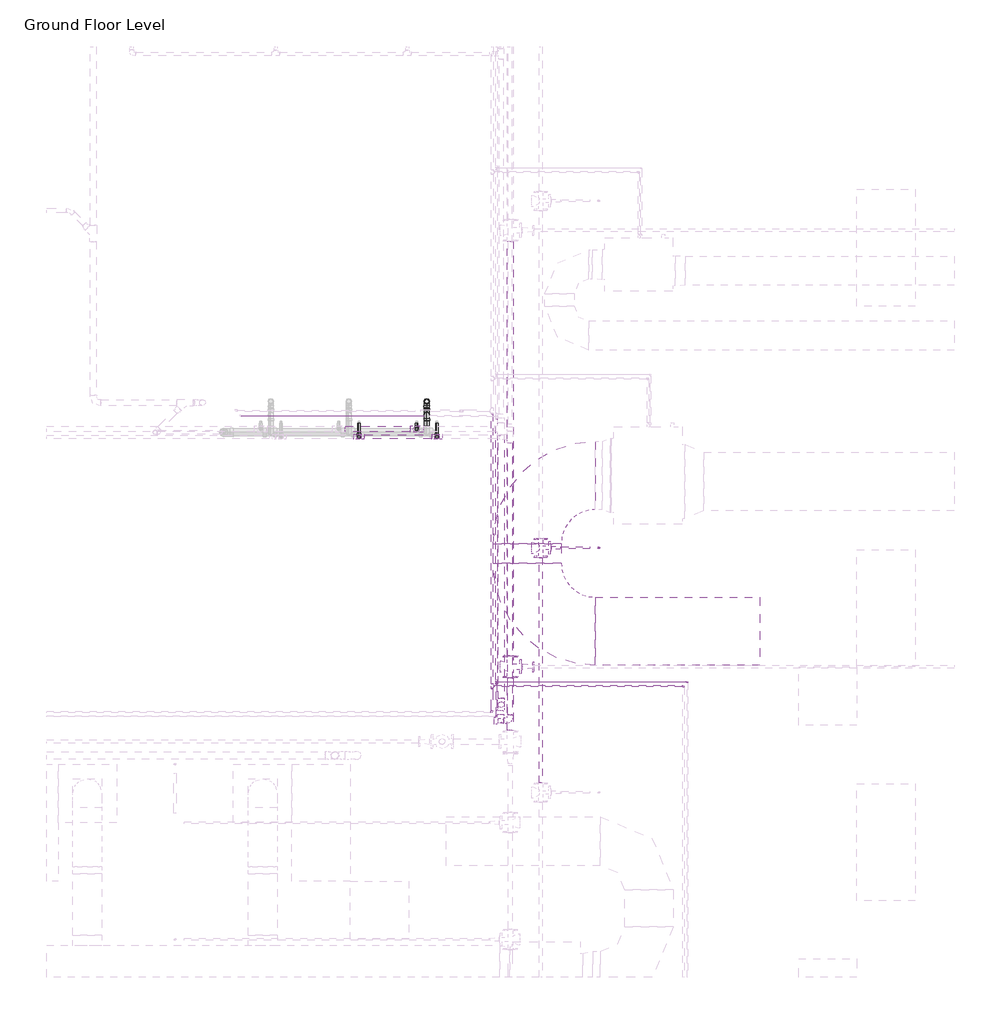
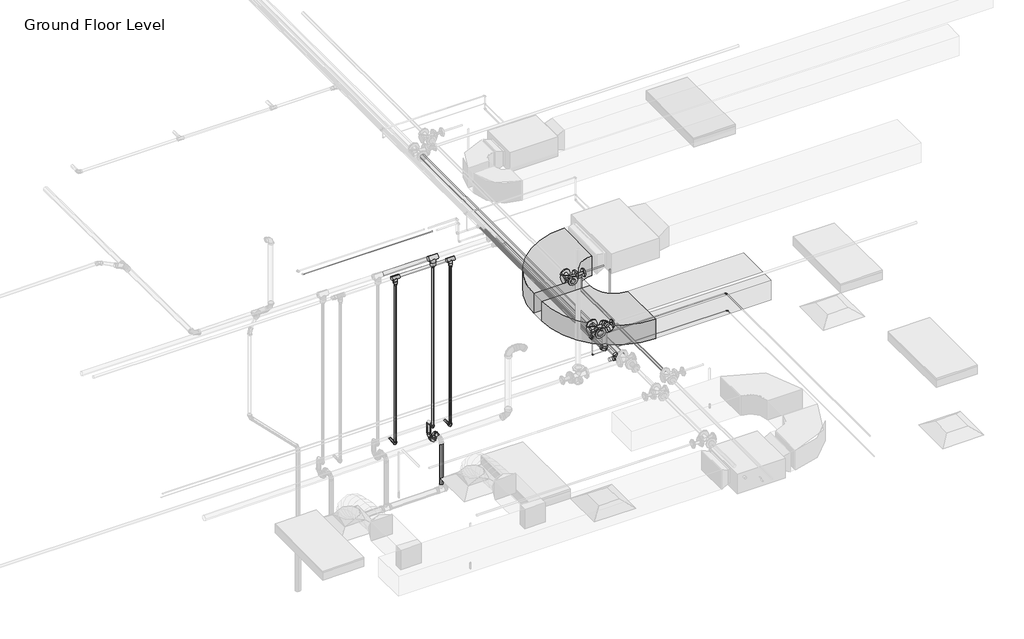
# One storey, part 16 of 66: 31 pipe fittings, 30 pipe segments, 2 duct fittings, 2 duct segments, 1 fire suppression terminal.
"""IFC4 building model written with IfcOpenShell, lengths in millimetres."""

from ifc_helpers import new_model, si_unit, point, frame, frame_2d, origin, place, context, project, spatial, polyline, circle_curve, trimmed, segment, composite_curve, outline, extrude, transform, mapped, element, save
from components import m_rectangular_elbow_radius_1_w_8a62b27e, m_sprinkler_pendent_15_mm_pendent_06fcbd8e, m_bend_pvc_sch_40_dwv_standard_1e7bdcc1, m_bend_pvc_sch_40_dwv_standard_776e50c4, m_elbow_generic_standard_a088f956, m_elbow_generic_standard_2a704253, m_reducer_flanged_cs_class_150_standard_d42b2106, m_reducer_flanged_cs_class_150_standard_a7631c35, m_tee_generic_standard_5b2ed4d4, m_tee_generic_standard_cdc1cff5, m_tee_round_base_flanged_cs_class_150_standard_dd767e04, m_tee_round_base_flanged_cs_class_150_standard_7e5987a1, m_transition_generic_standard_6dc712c0, m_transition_generic_standard_bdcfe2c1, m_transition_generic_standard_2d362458, standard_b266ab3f, standard_08ff6011, standard_cd25fed3, standard_83629b21, standard_57727813, standard_9d5ac8af, standard_102e5625

model = new_model("IFC4")

# Units and contexts
model_context = context("Model", 3, world=origin())
ifc_project = project(units=[si_unit("LENGTHUNIT", "METRE", prefix="MILLI")], contexts=[model_context])

# Site, building, storey
site = spatial("IfcSite", under=ifc_project)
building = spatial("IfcBuilding", under=site)
storey = spatial("IfcBuildingStorey", under=building, Name="Ground Floor Level", Elevation=900.0)

# Duct fittings
placement = place(None, origin())
m_rectangular_elbow_radius_1_w_shape = m_rectangular_elbow_radius_1_w_8a62b27e(model_context)
element("IfcDuctFitting", 1, ObjectType="M_Rectangular Elbow - Radius : 1 W", at=placement, inside=storey, context=model_context, shape_type="MappedRepresentation", body=[
    mapped(m_rectangular_elbow_radius_1_w_shape, transform((5857.7672394, -33301.2726336, 4032.4375), x_axis=(-1.0, 0.0, 0.0), y_axis=(0.0, -1.0, 0.0), z_axis=(0.0, 0.0, 1.0))),
])
element("IfcDuctFitting", 2, ObjectType="M_Rectangular Elbow - Radius : 1 W", at=placement, inside=storey, context=model_context, shape_type="MappedRepresentation", body=[
    mapped(m_rectangular_elbow_radius_1_w_shape, transform((5857.7672394, -34901.2726336, 4032.4375), x_axis=(0.0, -1.0, 0.0), y_axis=(1.0, 0.0, 0.0), z_axis=(0.0, 0.0, 1.0))),
])

# Duct segments
element("IfcDuctSegment", 3, ObjectType="Radius Elbows / Taps", at=placement, inside=storey, context=model_context, shape_type="SweptSolid", body=[
    extrude(outline(polyline([(5507.7672394, -34001.2726336), (6207.7672394, -34001.2726336), (6207.7672394, -34201.2726336), (5507.7672394, -34201.2726336), (5507.7672394, -34001.2726336)])), frame((0.0, 0.0, 3882.4375), z_axis=(0.0, 0.0, 1.0), x_axis=(1.0, 0.0, 0.0)), (0.0, 0.0, 1.0), 300.0),
])
element("IfcDuctSegment", 4, ObjectType="Radius Elbows / Taps", at=placement, inside=storey, context=model_context, shape_type="SweptSolid", body=[
    extrude(outline(polyline([(6557.7672394, -35251.2726336), (6557.7672394, -34551.2726336), (8242.7672394, -34551.2726336), (8242.7672394, -35251.2726336), (6557.7672394, -35251.2726336)])), frame((0.0, 0.0, 3882.4375), z_axis=(0.0, 0.0, 1.0), x_axis=(1.0, 0.0, 0.0)), (0.0, 0.0, 1.0), 300.0),
])

# Fire suppression terminal
m_sprinkler_pendent_15_mm_pendent_shape = m_sprinkler_pendent_15_mm_pendent_06fcbd8e(model_context)
element("IfcFireSuppressionTerminal", 5, ObjectType="M_Sprinkler - Pendent : 15 mm Pendent", at=placement, inside=storey, context=model_context, shape_type="MappedRepresentation", body=[
    mapped(m_sprinkler_pendent_15_mm_pendent_shape, transform((6592.5481019, -34045.051432, 3650.0), x_axis=(1.0, 0.0, 0.0), y_axis=(0.0, 1.0, 0.0), z_axis=(0.0, 0.0, 1.0))),
])

# Pipe fittings
m_bend_pvc_sch_40_dwv_standard_shape = m_bend_pvc_sch_40_dwv_standard_1e7bdcc1(model_context)
element("IfcPipeFitting", 6, ObjectType="M_Bend - PVC - Sch 40 - DWV : Standard", at=placement, inside=storey, context=model_context, shape_type="MappedRepresentation", body=[
    mapped(m_bend_pvc_sch_40_dwv_standard_shape, transform((4826.7846789, -32541.2164355, 1350.0), x_axis=(0.0, 0.0, -1.0), y_axis=(0.0, -1.0, 0.0), z_axis=(-1.0, 0.0, 0.0))),
])
m_bend_pvc_sch_40_dwv_standard_2_shape = m_bend_pvc_sch_40_dwv_standard_776e50c4(model_context)
element("IfcPipeFitting", 7, ObjectType="M_Bend - PVC - Sch 40 - DWV : Standard", at=placement, inside=storey, context=model_context, shape_type="MappedRepresentation", body=[
    mapped(m_bend_pvc_sch_40_dwv_standard_2_shape, transform((4826.7846789, -32676.2164355, 1348.45), x_axis=(0.0, -0.9999500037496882, -0.009999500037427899), y_axis=(0.0, -0.009999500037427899, 0.9999500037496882), z_axis=(-1.0, 0.0, 0.0))),
])
element("IfcPipeFitting", 8, ObjectType="M_Bend - PVC - Sch 40 - DWV : Standard", at=placement, inside=storey, context=model_context, shape_type="MappedRepresentation", body=[
    mapped(m_bend_pvc_sch_40_dwv_standard_2_shape, transform((4826.7846789, -32676.2164355, 1490.0), x_axis=(0.0, 0.0, 1.0), y_axis=(0.0, -1.0, 0.0), z_axis=(1.0, 0.0, 0.0))),
])
m_elbow_generic_standard_shape = m_elbow_generic_standard_a088f956(model_context)
element("IfcPipeFitting", 9, ObjectType="M_Elbow - Generic : Standard", at=placement, inside=storey, context=model_context, shape_type="MappedRepresentation", body=[
    mapped(m_elbow_generic_standard_shape, transform((5497.8951827, -35730.466218, 4390.0), x_axis=(1.0, 0.0, 0.0), y_axis=(0.0, 1.0, 0.0), z_axis=(0.0, 0.0, 1.0))),
])
element("IfcPipeFitting", 10, ObjectType="M_Elbow - Generic : Standard", at=placement, inside=storey, context=model_context, shape_type="MappedRepresentation", body=[
    mapped(m_elbow_generic_standard_shape, transform((7462.8951827, -35463.1206952, 4390.0), x_axis=(0.0, 1.0, 0.0), y_axis=(-1.0, 0.0, 0.0), z_axis=(0.0, 0.0, 1.0))),
])
m_elbow_generic_standard_2_shape = m_elbow_generic_standard_2a704253(model_context)
element("IfcPipeFitting", 11, ObjectType="M_Elbow - Generic : Standard", at=placement, inside=storey, context=model_context, shape_type="MappedRepresentation", body=[
    mapped(m_elbow_generic_standard_2_shape, transform((5543.9904113, -35773.5402522, 4377.5), x_axis=(1.0, 0.0, 0.0), y_axis=(0.0, 1.0, 0.0), z_axis=(0.0, 0.0, 1.0))),
])
element("IfcPipeFitting", 12, ObjectType="M_Elbow - Generic : Standard", at=placement, inside=storey, context=model_context, shape_type="MappedRepresentation", body=[
    mapped(m_elbow_generic_standard_2_shape, transform((7503.9904113, -35420.6009836, 4084.9), x_axis=(0.0, 1.0, 0.0), y_axis=(-1.0, 0.0, 0.0), z_axis=(0.0, 0.0, 1.0))),
])
element("IfcPipeFitting", 13, ObjectType="M_Elbow - Generic : Standard", at=placement, inside=storey, context=model_context, shape_type="MappedRepresentation", body=[
    mapped(m_elbow_generic_standard_2_shape, transform((5543.9904113, -35420.6009836, 4084.9), x_axis=(0.0, 0.0, -1.0), y_axis=(1.0, 0.0, 0.0), z_axis=(0.0, -1.0, 0.0))),
])
m_reducer_flanged_cs_class_150_standard_shape = m_reducer_flanged_cs_class_150_standard_d42b2106(model_context)
element("IfcPipeFitting", 14, ObjectType="M_Reducer - Flanged - CS - Class 150 : Standard", at=placement, inside=storey, context=model_context, shape_type="MappedRepresentation", body=[
    mapped(m_reducer_flanged_cs_class_150_standard_shape, transform((6097.7664057, -34045.051432, 4291.2754753), x_axis=(1.0, 0.0, 0.0), y_axis=(0.0, 0.0, -1.0), z_axis=(0.0, 1.0, 0.0))),
])
m_reducer_flanged_cs_class_150_standard_2_shape = m_reducer_flanged_cs_class_150_standard_a7631c35(model_context)
element("IfcPipeFitting", 15, ObjectType="M_Reducer - Flanged - CS - Class 150 : Standard", at=placement, inside=storey, context=model_context, shape_type="MappedRepresentation", body=[
    mapped(m_reducer_flanged_cs_class_150_standard_2_shape, transform((5798.6174894, -35264.7846466, 4347.5), x_axis=(1.0, 0.0, 0.0), y_axis=(0.0, 0.0, 1.0), z_axis=(0.0, -1.0, 0.0))),
])
m_tee_generic_standard_shape = m_tee_generic_standard_5b2ed4d4(model_context)
element("IfcPipeFitting", 16, ObjectType="M_Tee - Generic : Standard", at=placement, inside=storey, context=model_context, shape_type="MappedRepresentation", body=[
    mapped(m_tee_generic_standard_shape, transform((5543.9904113, -35420.6009836, 4377.5), x_axis=(0.0, 1.0, 0.0), y_axis=(0.0, 0.0, 1.0), z_axis=(1.0, 0.0, 0.0))),
])
m_tee_generic_standard_2_shape = m_tee_generic_standard_cdc1cff5(model_context)
element("IfcPipeFitting", 17, ObjectType="M_Tee - Generic : Standard", at=placement, inside=storey, context=model_context, shape_type="MappedRepresentation", body=[
    mapped(m_tee_generic_standard_2_shape, transform((5497.8951827, -35463.1206952, 4390.0), x_axis=(0.0, 1.0, 0.0), y_axis=(-1.0, 0.0, 0.0), z_axis=(0.0, 0.0, 1.0))),
])
m_tee_round_base_flanged_cs_class_150_standard_shape = m_tee_round_base_flanged_cs_class_150_standard_dd767e04(model_context)
element("IfcPipeFitting", 18, ObjectType="M_Tee Round Base - Flanged - CS - Class 150 : Standard", at=placement, inside=storey, context=model_context, shape_type="MappedRepresentation", body=[
    mapped(m_tee_round_base_flanged_cs_class_150_standard_shape, transform((5684.6174894, -35264.7846466, 4347.5), x_axis=(0.0, -1.0, 0.0), y_axis=(-1.0, 0.0, 0.0), z_axis=(0.0, 0.0, -1.0))),
])
m_tee_round_base_flanged_cs_class_150_standard_2_shape = m_tee_round_base_flanged_cs_class_150_standard_7e5987a1(model_context)
element("IfcPipeFitting", 19, ObjectType="M_Tee Round Base - Flanged - CS - Class 150 : Standard", at=placement, inside=storey, context=model_context, shape_type="MappedRepresentation", body=[
    mapped(m_tee_round_base_flanged_cs_class_150_standard_2_shape, transform((5997.057812, -34045.051432, 4291.0943441), x_axis=(0.0, 1.0, 0.0), y_axis=(-1.0, 0.0, 0.0), z_axis=(0.0, 0.0, 1.0))),
])
m_transition_generic_standard_shape = m_transition_generic_standard_6dc712c0(model_context)
element("IfcPipeFitting", 20, ObjectType="M_Transition - Generic : Standard", at=placement, inside=storey, context=model_context, shape_type="MappedRepresentation", body=[
    mapped(m_transition_generic_standard_shape, transform((5497.8951827, -35485.3456952, 4390.0), x_axis=(0.0, -1.0, 0.0), y_axis=(1.0, 0.0, 0.0), z_axis=(0.0, 0.0, 1.0))),
])
element("IfcPipeFitting", 21, ObjectType="M_Transition - Generic : Standard", at=placement, inside=storey, context=model_context, shape_type="MappedRepresentation", body=[
    mapped(m_transition_generic_standard_shape, transform((5520.1201827, -35463.1206952, 4390.0), x_axis=(1.0, 0.0, 0.0), y_axis=(0.0, 1.0, 0.0), z_axis=(0.0, 0.0, 1.0))),
])
m_transition_generic_standard_2_shape = m_transition_generic_standard_bdcfe2c1(model_context)
element("IfcPipeFitting", 22, ObjectType="M_Transition - Generic : Standard", at=placement, inside=storey, context=model_context, shape_type="MappedRepresentation", body=[
    mapped(m_transition_generic_standard_2_shape, transform((5543.9904113, -35441.2384836, 4377.5), x_axis=(0.0, -1.0, 0.0), y_axis=(1.0, 0.0, 0.0), z_axis=(0.0, 0.0, 1.0))),
])
m_transition_generic_standard_3_shape = m_transition_generic_standard_2d362458(model_context)
element("IfcPipeFitting", 23, ObjectType="M_Transition - Generic : Standard", at=placement, inside=storey, context=model_context, shape_type="MappedRepresentation", body=[
    mapped(m_transition_generic_standard_3_shape, transform((5543.9904113, -35420.6009836, 4356.8625), x_axis=(0.0, 0.0, -1.0), y_axis=(-1.0, 0.0, 0.0), z_axis=(0.0, 1.0, 0.0))),
])
standard_shape = standard_b266ab3f(model_context)
element("IfcPipeFitting", 24, ObjectType="M_Elbow - CPVC - Sch 40 : Standard", at=placement, inside=storey, context=model_context, shape_type="MappedRepresentation", body=[
    mapped(standard_shape, transform((4722.4697583, -32824.9853451, 1690.0), x_axis=(0.0, 0.0, -1.0), y_axis=(0.0, 1.0, 0.0), z_axis=(1.0, 0.0, 0.0))),
])
element("IfcPipeFitting", 25, ObjectType="M_Elbow - CPVC - Sch 40 : Standard", at=placement, inside=storey, context=model_context, shape_type="MappedRepresentation", body=[
    mapped(standard_shape, transform((4931.0995995, -32905.870708, 1690.0), x_axis=(0.0, -1.0, 0.0), y_axis=(0.0, 0.0, 1.0), z_axis=(-1.0, 0.0, 0.0))),
])
element("IfcPipeFitting", 26, ObjectType="M_Elbow - CPVC - Sch 40 : Standard", at=placement, inside=storey, context=model_context, shape_type="MappedRepresentation", body=[
    mapped(standard_shape, transform((4131.0995995, -32905.870708, 1690.0), x_axis=(0.0, -1.0, 0.0), y_axis=(0.0, 0.0, 1.0), z_axis=(-1.0, 0.0, 0.0))),
])
standard_2_shape = standard_08ff6011(model_context)
element("IfcPipeFitting", 27, ObjectType="M_Tee - CPVC - Sch 40 : Standard", at=placement, inside=storey, context=model_context, shape_type="MappedRepresentation", body=[
    mapped(standard_2_shape, transform((4931.0995995, -32905.870708, 4250.0), x_axis=(1.0, 0.0, 0.0), y_axis=(0.0, 0.0, 1.0), z_axis=(0.0, -1.0, 0.0))),
])
element("IfcPipeFitting", 28, ObjectType="M_Tee - CPVC - Sch 40 : Standard", at=placement, inside=storey, context=model_context, shape_type="MappedRepresentation", body=[
    mapped(standard_2_shape, transform((4131.0995995, -32905.870708, 4250.0), x_axis=(1.0, 0.0, 0.0), y_axis=(0.0, 0.0, 1.0), z_axis=(0.0, -1.0, 0.0))),
])
standard_3_shape = standard_cd25fed3(model_context)
element("IfcPipeFitting", 29, ObjectType="M_Tee - CPVC - Sch 40 : Standard", at=placement, inside=storey, context=model_context, shape_type="MappedRepresentation", body=[
    mapped(standard_3_shape, transform((4722.4697583, -32824.9853451, 4300.0), x_axis=(-1.0, 0.0, 0.0), y_axis=(0.0, 0.0, 1.0), z_axis=(0.0, 1.0, 0.0))),
])
standard_4_shape = standard_83629b21(model_context)
element("IfcPipeFitting", 30, ObjectType="M_Coupling Reducing - CPVC - Sch 40 : Standard", at=placement, inside=storey, context=model_context, shape_type="MappedRepresentation", body=[
    mapped(standard_4_shape, transform((4931.0995995, -32905.870708, 4196.025), x_axis=(0.0, 0.0, -1.0), y_axis=(-1.0, 0.0, 0.0), z_axis=(0.0, 1.0, 0.0))),
])
element("IfcPipeFitting", 31, ObjectType="M_Coupling Reducing - CPVC - Sch 40 : Standard", at=placement, inside=storey, context=model_context, shape_type="MappedRepresentation", body=[
    mapped(standard_4_shape, transform((4131.0995995, -32905.870708, 4196.025), x_axis=(0.0, 0.0, -1.0), y_axis=(-1.0, 0.0, 0.0), z_axis=(0.0, 1.0, 0.0))),
])
standard_5_shape = standard_57727813(model_context)
element("IfcPipeFitting", 32, ObjectType="M_Elbow - CPVC - Sch 40 : Standard", at=placement, inside=storey, context=model_context, shape_type="MappedRepresentation", body=[
    mapped(standard_5_shape, transform((5589.646628, -35653.7116931, 4719.8375), x_axis=(0.0, 0.0, 1.0), y_axis=(-0.06975647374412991, -0.997564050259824, 0.0), z_axis=(0.997564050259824, -0.06975647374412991, 0.0))),
])
element("IfcPipeFitting", 33, ObjectType="M_Elbow - CPVC - Sch 40 : Standard", at=placement, inside=storey, context=model_context, shape_type="MappedRepresentation", body=[
    mapped(standard_5_shape, transform((5585.1617227, -35819.459752, 4719.8375), x_axis=(1.0, 0.0, 0.0), y_axis=(0.0, 1.0, 0.0), z_axis=(0.0, 0.0, 1.0))),
])
element("IfcPipeFitting", 34, ObjectType="M_Elbow - CPVC - Sch 40 : Standard", at=placement, inside=storey, context=model_context, shape_type="MappedRepresentation", body=[
    mapped(standard_5_shape, transform((5589.646628, -35653.7116931, 4300.0), x_axis=(0.0, 0.0, -1.0), y_axis=(0.0, 1.0, 0.0), z_axis=(1.0, 0.0, 0.0))),
])
standard_6_shape = standard_9d5ac8af(model_context)
element("IfcPipeFitting", 35, ObjectType="M_Coupling Reducing - CPVC - Sch 40 : Standard", at=placement, inside=storey, context=model_context, shape_type="MappedRepresentation", body=[
    mapped(standard_6_shape, transform((4722.4697583, -32824.9853451, 4233.325), x_axis=(0.0, 0.0, -1.0), y_axis=(-1.0, 0.0, 0.0), z_axis=(0.0, 1.0, 0.0))),
])
standard_7_shape = standard_102e5625(model_context)
element("IfcPipeFitting", 36, ObjectType="M_Elbow - CPVC - Sch 40 : Standard", at=placement, inside=storey, context=model_context, shape_type="MappedRepresentation", body=[
    mapped(standard_7_shape, transform((5680.5575802, -35819.459752, 4250.0), x_axis=(1.0, 0.0, 0.0), y_axis=(0.0, 1.0, 0.0), z_axis=(0.0, 0.0, 1.0))),
])

# Pipe segments
element("IfcPipeSegment", 37, ObjectType="CPVC", at=placement, inside=storey, context=model_context, shape_type="SweptSolid", body=[
    extrude(outline(composite_curve([segment(trimmed(circle_curve(frame_2d((5589.646628, -35653.7116931)), 30.1625), [point((5559.484128, -35653.7116931))], [point((5589.646628, -35623.5491931))], False, "CARTESIAN"), True, "CONTINUOUS"), segment(trimmed(circle_curve(frame_2d((5589.646628, -35653.7116931)), 30.1625), [point((5589.646628, -35623.5491931))], [point((5619.809128, -35653.7116931))], False, "CARTESIAN"), True, "CONTINUOUS"), segment(trimmed(circle_curve(frame_2d((5589.646628, -35653.7116931)), 30.1625), [point((5619.809128, -35653.7116931))], [point((5589.646628, -35683.8741931))], False, "CARTESIAN"), True, "CONTINUOUS"), segment(trimmed(circle_curve(frame_2d((5589.646628, -35653.7116931)), 30.1625), [point((5589.646628, -35683.8741931))], [point((5559.484128, -35653.7116931))], False, "CARTESIAN"), True, "CONTINUOUS")], self_intersect=False)), frame((0.0, 0.0, 4364.29375), z_axis=(0.0, 0.0, 1.0), x_axis=(1.0, 0.0, 0.0)), (0.0, 0.0, 1.0), 291.25),
])
element("IfcPipeSegment", 38, ObjectType="CPVC", at=placement, inside=storey, context=model_context, shape_type="SweptSolid", body=[
    extrude(outline(composite_curve([segment(trimmed(circle_curve(frame_2d((4300.0, 5589.646628)), 30.1625), [point((4300.0, 5559.484128))], [point((4269.8375, 5589.646628))], False, "CARTESIAN"), True, "CONTINUOUS"), segment(trimmed(circle_curve(frame_2d((4300.0, 5589.646628)), 30.1625), [point((4269.8375, 5589.646628))], [point((4300.0, 5619.809128))], False, "CARTESIAN"), True, "CONTINUOUS"), segment(trimmed(circle_curve(frame_2d((4300.0, 5589.646628)), 30.1625), [point((4300.0, 5619.809128))], [point((4330.1625, 5589.646628))], False, "CARTESIAN"), True, "CONTINUOUS"), segment(trimmed(circle_curve(frame_2d((4300.0, 5589.646628)), 30.1625), [point((4330.1625, 5589.646628))], [point((4300.0, 5559.484128))], False, "CARTESIAN"), True, "CONTINUOUS")], self_intersect=False)), frame((0.0, -35589.4179431, 0.0), z_axis=(0.0, 1.0, 0.0), x_axis=(0.0, 0.0, 1.0)), (0.0, 0.0, 1.0), 2697.757598),
])
element("IfcPipeSegment", 39, ObjectType="CPVC", at=placement, inside=storey, context=model_context, shape_type="SweptSolid", body=[
    extrude(outline(composite_curve([segment(trimmed(circle_curve(frame_2d((1690.0, 4722.4697583)), 13.335), [point((1690.0, 4735.8047583))], [point((1703.335, 4722.4697583))], False, "CARTESIAN"), True, "CONTINUOUS"), segment(trimmed(circle_curve(frame_2d((1690.0, 4722.4697583)), 13.335), [point((1703.335, 4722.4697583))], [point((1690.0, 4709.1347583))], False, "CARTESIAN"), True, "CONTINUOUS"), segment(trimmed(circle_curve(frame_2d((1690.0, 4722.4697583)), 13.335), [point((1690.0, 4709.1347583))], [point((1676.665, 4722.4697583))], False, "CARTESIAN"), True, "CONTINUOUS"), segment(trimmed(circle_curve(frame_2d((1690.0, 4722.4697583)), 13.335), [point((1676.665, 4722.4697583))], [point((1690.0, 4735.8047583))], False, "CARTESIAN"), True, "CONTINUOUS")], self_intersect=False)), frame((0.0, -32789.6602951, 0.0), z_axis=(0.0, 1.0, 0.0), x_axis=(0.0, 0.0, 1.0)), (0.0, 0.0, 1.0), 24.8756485),
])
element("IfcPipeSegment", 40, ObjectType="CPVC", at=placement, inside=storey, context=model_context, shape_type="SweptSolid", body=[
    extrude(outline(composite_curve([segment(trimmed(circle_curve(frame_2d((4722.4697583, -32824.9853451)), 13.335), [point((4735.8047583, -32824.9853451))], [point((4722.4697583, -32838.3203451))], False, "CARTESIAN"), True, "CONTINUOUS"), segment(trimmed(circle_curve(frame_2d((4722.4697583, -32824.9853451)), 13.335), [point((4722.4697583, -32838.3203451))], [point((4709.1347583, -32824.9853451))], False, "CARTESIAN"), True, "CONTINUOUS"), segment(trimmed(circle_curve(frame_2d((4722.4697583, -32824.9853451)), 13.335), [point((4709.1347583, -32824.9853451))], [point((4722.4697583, -32811.6503451))], False, "CARTESIAN"), True, "CONTINUOUS"), segment(trimmed(circle_curve(frame_2d((4722.4697583, -32824.9853451)), 13.335), [point((4722.4697583, -32811.6503451))], [point((4735.8047583, -32824.9853451))], False, "CARTESIAN"), True, "CONTINUOUS")], self_intersect=False)), frame((0.0, 0.0, 1725.32505), z_axis=(0.0, 0.0, 1.0), x_axis=(1.0, 0.0, 0.0)), (0.0, 0.0, 1.0), 2431.503075),
])
element("IfcPipeSegment", 41, ObjectType="CPVC", at=placement, inside=storey, context=model_context, shape_type="SweptSolid", body=[
    extrude(outline(composite_curve([segment(trimmed(circle_curve(frame_2d((-32824.9853451, 4300.0)), 30.1625), [point((-32855.1478451, 4300.0))], [point((-32824.9853451, 4330.1625))], False, "CARTESIAN"), True, "CONTINUOUS"), segment(trimmed(circle_curve(frame_2d((-32824.9853451, 4300.0)), 30.1625), [point((-32824.9853451, 4330.1625))], [point((-32794.8228451, 4300.0))], False, "CARTESIAN"), True, "CONTINUOUS"), segment(trimmed(circle_curve(frame_2d((-32824.9853451, 4300.0)), 30.1625), [point((-32794.8228451, 4300.0))], [point((-32824.9853451, 4269.8375))], False, "CARTESIAN"), True, "CONTINUOUS"), segment(trimmed(circle_curve(frame_2d((-32824.9853451, 4300.0)), 30.1625), [point((-32824.9853451, 4269.8375))], [point((-32855.1478451, 4300.0))], False, "CARTESIAN"), True, "CONTINUOUS")], self_intersect=False)), frame((3989.1447583, 0.0, 0.0), z_axis=(1.0, 0.0, 0.0), x_axis=(0.0, 1.0, 0.0)), (0.0, 0.0, 1.0), 666.65),
])
element("IfcPipeSegment", 42, ObjectType="CPVC", at=placement, inside=storey, context=model_context, shape_type="SweptSolid", body=[
    extrude(outline(composite_curve([segment(trimmed(circle_curve(frame_2d((4250.0, 5680.5575802)), 24.13), [point((4250.0, 5704.6875802))], [point((4274.13, 5680.5575802))], False, "CARTESIAN"), True, "CONTINUOUS"), segment(trimmed(circle_curve(frame_2d((4250.0, 5680.5575802)), 24.13), [point((4274.13, 5680.5575802))], [point((4250.0, 5656.4275802))], False, "CARTESIAN"), True, "CONTINUOUS"), segment(trimmed(circle_curve(frame_2d((4250.0, 5680.5575802)), 24.13), [point((4250.0, 5656.4275802))], [point((4225.87, 5680.5575802))], False, "CARTESIAN"), True, "CONTINUOUS"), segment(trimmed(circle_curve(frame_2d((4250.0, 5680.5575802)), 24.13), [point((4225.87, 5680.5575802))], [point((4250.0, 5704.6875802))], False, "CARTESIAN"), True, "CONTINUOUS")], self_intersect=False)), frame((0.0, -35756.740802, 0.0), z_axis=(0.0, 1.0, 0.0), x_axis=(0.0, 0.0, 1.0)), (0.0, 0.0, 1.0), 2792.119894),
])
element("IfcPipeSegment", 43, ObjectType="CPVC", at=placement, inside=storey, context=model_context, shape_type="SweptSolid", body=[
    extrude(outline(composite_curve([segment(trimmed(circle_curve(frame_2d((1690.0, 4931.0995995)), 13.335), [point((1690.0, 4917.7645995))], [point((1676.665, 4931.0995995))], False, "CARTESIAN"), True, "CONTINUOUS"), segment(trimmed(circle_curve(frame_2d((1690.0, 4931.0995995)), 13.335), [point((1676.665, 4931.0995995))], [point((1690.0, 4944.4345995))], False, "CARTESIAN"), True, "CONTINUOUS"), segment(trimmed(circle_curve(frame_2d((1690.0, 4931.0995995)), 13.335), [point((1690.0, 4944.4345995))], [point((1703.335, 4931.0995995))], False, "CARTESIAN"), True, "CONTINUOUS"), segment(trimmed(circle_curve(frame_2d((1690.0, 4931.0995995)), 13.335), [point((1703.335, 4931.0995995))], [point((1690.0, 4917.7645995))], False, "CARTESIAN"), True, "CONTINUOUS")], self_intersect=False)), frame((0.0, -32870.545658, 0.0), z_axis=(0.0, 1.0, 0.0), x_axis=(0.0, 0.0, 1.0)), (0.0, 0.0, 1.0), 105.7610114),
])
element("IfcPipeSegment", 44, ObjectType="CPVC", at=placement, inside=storey, context=model_context, shape_type="SweptSolid", body=[
    extrude(outline(composite_curve([segment(trimmed(circle_curve(frame_2d((4931.0995995, -32905.870708)), 13.335), [point((4917.7645995, -32905.870708))], [point((4931.0995995, -32892.535708))], False, "CARTESIAN"), True, "CONTINUOUS"), segment(trimmed(circle_curve(frame_2d((4931.0995995, -32905.870708)), 13.335), [point((4931.0995995, -32892.535708))], [point((4944.4345995, -32905.870708))], False, "CARTESIAN"), True, "CONTINUOUS"), segment(trimmed(circle_curve(frame_2d((4931.0995995, -32905.870708)), 13.335), [point((4944.4345995, -32905.870708))], [point((4931.0995995, -32919.205708))], False, "CARTESIAN"), True, "CONTINUOUS"), segment(trimmed(circle_curve(frame_2d((4931.0995995, -32905.870708)), 13.335), [point((4931.0995995, -32919.205708))], [point((4917.7645995, -32905.870708))], False, "CARTESIAN"), True, "CONTINUOUS")], self_intersect=False)), frame((0.0, 0.0, 1725.32505), z_axis=(0.0, 0.0, 1.0), x_axis=(1.0, 0.0, 0.0)), (0.0, 0.0, 1.0), 2407.883075),
])
element("IfcPipeSegment", 45, ObjectType="CPVC", at=placement, inside=storey, context=model_context, shape_type="SweptSolid", body=[
    extrude(outline(composite_curve([segment(trimmed(circle_curve(frame_2d((1690.0, 4131.0995995)), 13.335), [point((1690.0, 4117.7645995))], [point((1676.665, 4131.0995995))], False, "CARTESIAN"), True, "CONTINUOUS"), segment(trimmed(circle_curve(frame_2d((1690.0, 4131.0995995)), 13.335), [point((1676.665, 4131.0995995))], [point((1690.0, 4144.4345995))], False, "CARTESIAN"), True, "CONTINUOUS"), segment(trimmed(circle_curve(frame_2d((1690.0, 4131.0995995)), 13.335), [point((1690.0, 4144.4345995))], [point((1703.335, 4131.0995995))], False, "CARTESIAN"), True, "CONTINUOUS"), segment(trimmed(circle_curve(frame_2d((1690.0, 4131.0995995)), 13.335), [point((1703.335, 4131.0995995))], [point((1690.0, 4117.7645995))], False, "CARTESIAN"), True, "CONTINUOUS")], self_intersect=False)), frame((0.0, -32870.545658, 0.0), z_axis=(0.0, 1.0, 0.0), x_axis=(0.0, 0.0, 1.0)), (0.0, 0.0, 1.0), 105.7610114),
])
element("IfcPipeSegment", 46, ObjectType="CPVC", at=placement, inside=storey, context=model_context, shape_type="SweptSolid", body=[
    extrude(outline(composite_curve([segment(trimmed(circle_curve(frame_2d((4131.0995995, -32905.870708)), 13.335), [point((4117.7645995, -32905.870708))], [point((4131.0995995, -32892.535708))], False, "CARTESIAN"), True, "CONTINUOUS"), segment(trimmed(circle_curve(frame_2d((4131.0995995, -32905.870708)), 13.335), [point((4131.0995995, -32892.535708))], [point((4144.4345995, -32905.870708))], False, "CARTESIAN"), True, "CONTINUOUS"), segment(trimmed(circle_curve(frame_2d((4131.0995995, -32905.870708)), 13.335), [point((4144.4345995, -32905.870708))], [point((4131.0995995, -32919.205708))], False, "CARTESIAN"), True, "CONTINUOUS"), segment(trimmed(circle_curve(frame_2d((4131.0995995, -32905.870708)), 13.335), [point((4131.0995995, -32919.205708))], [point((4117.7645995, -32905.870708))], False, "CARTESIAN"), True, "CONTINUOUS")], self_intersect=False)), frame((0.0, 0.0, 1725.32505), z_axis=(0.0, 0.0, 1.0), x_axis=(1.0, 0.0, 0.0)), (0.0, 0.0, 1.0), 2407.883075),
])
element("IfcPipeSegment", 47, ObjectType="CPVC", at=placement, inside=storey, context=model_context, shape_type="SweptSolid", body=[
    extrude(outline(composite_curve([segment(trimmed(circle_curve(frame_2d((-32905.870708, 4250.0)), 21.082), [point((-32884.788708, 4250.0))], [point((-32905.870708, 4228.918))], False, "CARTESIAN"), True, "CONTINUOUS"), segment(trimmed(circle_curve(frame_2d((-32905.870708, 4250.0)), 21.082), [point((-32905.870708, 4228.918))], [point((-32926.952708, 4250.0))], False, "CARTESIAN"), True, "CONTINUOUS"), segment(trimmed(circle_curve(frame_2d((-32905.870708, 4250.0)), 21.082), [point((-32926.952708, 4250.0))], [point((-32905.870708, 4271.082))], False, "CARTESIAN"), True, "CONTINUOUS"), segment(trimmed(circle_curve(frame_2d((-32905.870708, 4250.0)), 21.082), [point((-32905.870708, 4271.082))], [point((-32884.788708, 4250.0))], False, "CARTESIAN"), True, "CONTINUOUS")], self_intersect=False)), frame((4185.0745995, 0.0, 0.0), z_axis=(1.0, 0.0, 0.0), x_axis=(0.0, 1.0, 0.0)), (0.0, 0.0, 1.0), 692.05),
])
element("IfcPipeSegment", 48, ObjectType="CPVC", at=placement, inside=storey, context=model_context, shape_type="SweptSolid", body=[
    extrude(outline(composite_curve([segment(trimmed(circle_curve(frame_2d((-35819.459752, 4250.0)), 24.13), [point((-35843.589752, 4250.0))], [point((-35819.459752, 4274.13))], False, "CARTESIAN"), True, "CONTINUOUS"), segment(trimmed(circle_curve(frame_2d((-35819.459752, 4250.0)), 24.13), [point((-35819.459752, 4274.13))], [point((-35795.329752, 4250.0))], False, "CARTESIAN"), True, "CONTINUOUS"), segment(trimmed(circle_curve(frame_2d((-35819.459752, 4250.0)), 24.13), [point((-35795.329752, 4250.0))], [point((-35819.459752, 4225.87))], False, "CARTESIAN"), True, "CONTINUOUS"), segment(trimmed(circle_curve(frame_2d((-35819.459752, 4250.0)), 24.13), [point((-35819.459752, 4225.87))], [point((-35843.589752, 4250.0))], False, "CARTESIAN"), True, "CONTINUOUS")], self_intersect=False)), frame((5558.4766944, 0.0, 0.0), z_axis=(1.0, 0.0, 0.0), x_axis=(0.0, 1.0, 0.0)), (0.0, 0.0, 1.0), 59.3619358),
])
element("IfcPipeSegment", 49, ObjectType="Copper", at=placement, inside=storey, context=model_context, shape_type="SweptSolid", body=[
    extrude(outline(composite_curve([segment(trimmed(circle_curve(frame_2d((4390.0, 5497.8951827)), 6.5), [point((4390.0, 5491.3951827))], [point((4383.5, 5497.8951827))], False, "CARTESIAN"), True, "CONTINUOUS"), segment(trimmed(circle_curve(frame_2d((4390.0, 5497.8951827)), 6.5), [point((4383.5, 5497.8951827))], [point((4390.0, 5504.3951827))], False, "CARTESIAN"), True, "CONTINUOUS"), segment(trimmed(circle_curve(frame_2d((4390.0, 5497.8951827)), 6.5), [point((4390.0, 5504.3951827))], [point((4396.5, 5497.8951827))], False, "CARTESIAN"), True, "CONTINUOUS"), segment(trimmed(circle_curve(frame_2d((4390.0, 5497.8951827)), 6.5), [point((4396.5, 5497.8951827))], [point((4390.0, 5491.3951827))], False, "CARTESIAN"), True, "CONTINUOUS")], self_intersect=False)), frame((0.0, -35716.178718, 0.0), z_axis=(0.0, 1.0, 0.0), x_axis=(0.0, 0.0, 1.0)), (0.0, 0.0, 1.0), 226.0705229),
])
element("IfcPipeSegment", 50, ObjectType="Copper", at=placement, inside=storey, context=model_context, shape_type="SweptSolid", body=[
    extrude(outline(composite_curve([segment(trimmed(circle_curve(frame_2d((-35463.1206952, 4390.0)), 6.5), [point((-35469.6206952, 4390.0))], [point((-35463.1206952, 4396.5))], False, "CARTESIAN"), True, "CONTINUOUS"), segment(trimmed(circle_curve(frame_2d((-35463.1206952, 4390.0)), 6.5), [point((-35463.1206952, 4396.5))], [point((-35456.6206952, 4390.0))], False, "CARTESIAN"), True, "CONTINUOUS"), segment(trimmed(circle_curve(frame_2d((-35463.1206952, 4390.0)), 6.5), [point((-35456.6206952, 4390.0))], [point((-35463.1206952, 4383.5))], False, "CARTESIAN"), True, "CONTINUOUS"), segment(trimmed(circle_curve(frame_2d((-35463.1206952, 4390.0)), 6.5), [point((-35463.1206952, 4383.5))], [point((-35469.6206952, 4390.0))], False, "CARTESIAN"), True, "CONTINUOUS")], self_intersect=False)), frame((5524.8826827, 0.0, 0.0), z_axis=(1.0, 0.0, 0.0), x_axis=(0.0, 1.0, 0.0)), (0.0, 0.0, 1.0), 1923.725),
])
element("IfcPipeSegment", 51, ObjectType="Copper", at=placement, inside=storey, context=model_context, shape_type="SweptSolid", body=[
    extrude(outline(composite_curve([segment(trimmed(circle_curve(frame_2d((4390.0, 5497.8951827)), 8.1), [point((4390.0, 5489.7951827))], [point((4381.9, 5497.8951827))], False, "CARTESIAN"), True, "CONTINUOUS"), segment(trimmed(circle_curve(frame_2d((4390.0, 5497.8951827)), 8.1), [point((4381.9, 5497.8951827))], [point((4390.0, 5505.9951827))], False, "CARTESIAN"), True, "CONTINUOUS"), segment(trimmed(circle_curve(frame_2d((4390.0, 5497.8951827)), 8.1), [point((4390.0, 5505.9951827))], [point((4398.1, 5497.8951827))], False, "CARTESIAN"), True, "CONTINUOUS"), segment(trimmed(circle_curve(frame_2d((4390.0, 5497.8951827)), 8.1), [point((4398.1, 5497.8951827))], [point((4390.0, 5489.7951827))], False, "CARTESIAN"), True, "CONTINUOUS")], self_intersect=False)), frame((0.0, -35440.8956952, 0.0), z_axis=(0.0, 1.0, 0.0), x_axis=(0.0, 0.0, 1.0)), (0.0, 0.0, 1.0), 2770.4294771),
])
element("IfcPipeSegment", 52, ObjectType="Copper", at=placement, inside=storey, context=model_context, shape_type="SweptSolid", body=[
    extrude(outline(composite_curve([segment(trimmed(circle_curve(frame_2d((4377.5, 5543.9904113)), 3.35), [point((4377.5, 5540.6404113))], [point((4374.15, 5543.9904113))], False, "CARTESIAN"), True, "CONTINUOUS"), segment(trimmed(circle_curve(frame_2d((4377.5, 5543.9904113)), 3.35), [point((4374.15, 5543.9904113))], [point((4377.5, 5547.3404113))], False, "CARTESIAN"), True, "CONTINUOUS"), segment(trimmed(circle_curve(frame_2d((4377.5, 5543.9904113)), 3.35), [point((4377.5, 5547.3404113))], [point((4380.85, 5543.9904113))], False, "CARTESIAN"), True, "CONTINUOUS"), segment(trimmed(circle_curve(frame_2d((4377.5, 5543.9904113)), 3.35), [point((4380.85, 5543.9904113))], [point((4377.5, 5540.6404113))], False, "CARTESIAN"), True, "CONTINUOUS")], self_intersect=False)), frame((0.0, -35762.4027522, 0.0), z_axis=(0.0, 1.0, 0.0), x_axis=(0.0, 0.0, 1.0)), (0.0, 0.0, 1.0), 317.1955186),
])
element("IfcPipeSegment", 53, ObjectType="Copper", at=placement, inside=storey, context=model_context, shape_type="SweptSolid", body=[
    extrude(outline(composite_curve([segment(trimmed(circle_curve(frame_2d((4377.5, 5543.9904113)), 6.5), [point((4377.5, 5537.4904113))], [point((4371.0, 5543.9904113))], False, "CARTESIAN"), True, "CONTINUOUS"), segment(trimmed(circle_curve(frame_2d((4377.5, 5543.9904113)), 6.5), [point((4371.0, 5543.9904113))], [point((4377.5, 5550.4904113))], False, "CARTESIAN"), True, "CONTINUOUS"), segment(trimmed(circle_curve(frame_2d((4377.5, 5543.9904113)), 6.5), [point((4377.5, 5550.4904113))], [point((4384.0, 5543.9904113))], False, "CARTESIAN"), True, "CONTINUOUS"), segment(trimmed(circle_curve(frame_2d((4377.5, 5543.9904113)), 6.5), [point((4384.0, 5543.9904113))], [point((4377.5, 5537.4904113))], False, "CARTESIAN"), True, "CONTINUOUS")], self_intersect=False)), frame((0.0, -35399.9634836, 0.0), z_axis=(0.0, 1.0, 0.0), x_axis=(0.0, 0.0, 1.0)), (0.0, 0.0, 1.0), 2681.4232314),
])
element("IfcPipeSegment", 54, ObjectType="Copper", at=placement, inside=storey, context=model_context, shape_type="SweptSolid", body=[
    extrude(outline(composite_curve([segment(trimmed(circle_curve(frame_2d((-32691.5527522, 4591.0863665)), 4.9), [point((-32686.6527522, 4591.0863665))], [point((-32691.5527522, 4586.1863665))], False, "CARTESIAN"), True, "CONTINUOUS"), segment(trimmed(circle_curve(frame_2d((-32691.5527522, 4591.0863665)), 4.9), [point((-32691.5527522, 4586.1863665))], [point((-32696.4527522, 4591.0863665))], False, "CARTESIAN"), True, "CONTINUOUS"), segment(trimmed(circle_curve(frame_2d((-32691.5527522, 4591.0863665)), 4.9), [point((-32696.4527522, 4591.0863665))], [point((-32691.5527522, 4595.9863665))], False, "CARTESIAN"), True, "CONTINUOUS"), segment(trimmed(circle_curve(frame_2d((-32691.5527522, 4591.0863665)), 4.9), [point((-32691.5527522, 4595.9863665))], [point((-32686.6527522, 4591.0863665))], False, "CARTESIAN"), True, "CONTINUOUS")], self_intersect=False)), frame((2924.0496079, 0.0, 0.0), z_axis=(1.0, 0.0, 0.0), x_axis=(0.0, 1.0, 0.0)), (0.0, 0.0, 1.0), 1873.9099107),
])
element("IfcPipeSegment", 55, ObjectType="Copper", at=placement, inside=storey, context=model_context, shape_type="SweptSolid", body=[
    extrude(outline(composite_curve([segment(trimmed(circle_curve(frame_2d((5543.9904113, -35420.6009836)), 3.35), [point((5547.3404113, -35420.6009836))], [point((5543.9904113, -35423.9509836))], False, "CARTESIAN"), True, "CONTINUOUS"), segment(trimmed(circle_curve(frame_2d((5543.9904113, -35420.6009836)), 3.35), [point((5543.9904113, -35423.9509836))], [point((5540.6404113, -35420.6009836))], False, "CARTESIAN"), True, "CONTINUOUS"), segment(trimmed(circle_curve(frame_2d((5543.9904113, -35420.6009836)), 3.35), [point((5540.6404113, -35420.6009836))], [point((5543.9904113, -35417.2509836))], False, "CARTESIAN"), True, "CONTINUOUS"), segment(trimmed(circle_curve(frame_2d((5543.9904113, -35420.6009836)), 3.35), [point((5543.9904113, -35417.2509836))], [point((5547.3404113, -35420.6009836))], False, "CARTESIAN"), True, "CONTINUOUS")], self_intersect=False)), frame((0.0, 0.0, 4096.0375), z_axis=(0.0, 0.0, 1.0), x_axis=(1.0, 0.0, 0.0)), (0.0, 0.0, 1.0), 256.85625),
])
element("IfcPipeSegment", 56, ObjectType="Copper", at=placement, inside=storey, context=model_context, shape_type="SweptSolid", body=[
    extrude(outline(composite_curve([segment(trimmed(circle_curve(frame_2d((-35420.6009836, 4084.9)), 3.35), [point((-35423.9509836, 4084.9))], [point((-35420.6009836, 4088.25))], False, "CARTESIAN"), True, "CONTINUOUS"), segment(trimmed(circle_curve(frame_2d((-35420.6009836, 4084.9)), 3.35), [point((-35420.6009836, 4088.25))], [point((-35417.2509836, 4084.9))], False, "CARTESIAN"), True, "CONTINUOUS"), segment(trimmed(circle_curve(frame_2d((-35420.6009836, 4084.9)), 3.35), [point((-35417.2509836, 4084.9))], [point((-35420.6009836, 4081.55))], False, "CARTESIAN"), True, "CONTINUOUS"), segment(trimmed(circle_curve(frame_2d((-35420.6009836, 4084.9)), 3.35), [point((-35420.6009836, 4081.55))], [point((-35423.9509836, 4084.9))], False, "CARTESIAN"), True, "CONTINUOUS")], self_intersect=False)), frame((5555.1279113, 0.0, 0.0), z_axis=(1.0, 0.0, 0.0), x_axis=(0.0, 1.0, 0.0)), (0.0, 0.0, 1.0), 1937.725),
])
element("IfcPipeSegment", 57, ObjectType="PVC - DWV", at=placement, inside=storey, context=model_context, shape_type="SweptSolid", body=[
    extrude(outline(composite_curve([segment(trimmed(circle_curve(frame_2d((4826.7846789, -32541.2164355)), 24.13), [point((4850.9146789, -32541.2164355))], [point((4826.7846789, -32565.3464355))], False, "CARTESIAN"), True, "CONTINUOUS"), segment(trimmed(circle_curve(frame_2d((4826.7846789, -32541.2164355)), 24.13), [point((4826.7846789, -32565.3464355))], [point((4802.6546789, -32541.2164355))], False, "CARTESIAN"), True, "CONTINUOUS"), segment(trimmed(circle_curve(frame_2d((4826.7846789, -32541.2164355)), 24.13), [point((4802.6546789, -32541.2164355))], [point((4826.7846789, -32517.0864355))], False, "CARTESIAN"), True, "CONTINUOUS"), segment(trimmed(circle_curve(frame_2d((4826.7846789, -32541.2164355)), 24.13), [point((4826.7846789, -32517.0864355))], [point((4850.9146789, -32541.2164355))], False, "CARTESIAN"), True, "CONTINUOUS")], self_intersect=False)), frame((0.0, 0.0, 1411.8998), z_axis=(0.0, 0.0, 1.0), x_axis=(1.0, 0.0, 0.0)), (0.0, 0.0, 1.0), 138.1002),
])
element("IfcPipeSegment", 58, ObjectType="PVC - DWV", at=placement, inside=storey, context=model_context, shape_type="SweptSolid", body=[
    extrude(outline(composite_curve([segment(trimmed(circle_curve(frame_2d((0.0, -24.13)), 24.13), [point((-24.13, -24.13))], [point((0.0, 0.0))], False, "CARTESIAN"), True, "CONTINUOUS"), segment(trimmed(circle_curve(frame_2d((0.0, -24.13)), 24.13), [point((0.0, 0.0))], [point((24.13, -24.13))], False, "CARTESIAN"), True, "CONTINUOUS"), segment(trimmed(circle_curve(frame_2d((0.0, -24.13)), 24.13), [point((24.13, -24.13))], [point((0.0, -48.2599999))], False, "CARTESIAN"), True, "CONTINUOUS"), segment(trimmed(circle_curve(frame_2d((0.0, -24.13)), 24.13), [point((0.0, -48.2599999))], [point((-24.13, -24.13))], False, "CARTESIAN"), True, "CONTINUOUS")], self_intersect=False)), frame((4826.7846789, -32614.0784423, 1324.9401735), z_axis=(0.0, 0.9999500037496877, 0.009999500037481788), x_axis=(1.0, 0.0, 0.0)), (0.0, 0.0, 1.0), 11.2091497),
])
element("IfcPipeSegment", 59, ObjectType="PVC - DWV", at=placement, inside=storey, context=model_context, shape_type="SweptSolid", body=[
    extrude(outline(composite_curve([segment(trimmed(circle_curve(frame_2d((4826.7846789, -32676.2164355)), 24.13), [point((4802.6546789, -32676.2164355))], [point((4826.7846789, -32652.0864355))], False, "CARTESIAN"), True, "CONTINUOUS"), segment(trimmed(circle_curve(frame_2d((4826.7846789, -32676.2164355)), 24.13), [point((4826.7846789, -32652.0864355))], [point((4850.9146789, -32676.2164355))], False, "CARTESIAN"), True, "CONTINUOUS"), segment(trimmed(circle_curve(frame_2d((4826.7846789, -32676.2164355)), 24.13), [point((4850.9146789, -32676.2164355))], [point((4826.7846789, -32700.3464355))], False, "CARTESIAN"), True, "CONTINUOUS"), segment(trimmed(circle_curve(frame_2d((4826.7846789, -32676.2164355)), 24.13), [point((4826.7846789, -32700.3464355))], [point((4802.6546789, -32676.2164355))], False, "CARTESIAN"), True, "CONTINUOUS")], self_intersect=False)), frame((0.0, 0.0, 1410.3498), z_axis=(0.0, 0.0, 1.0), x_axis=(1.0, 0.0, 0.0)), (0.0, 0.0, 1.0), 17.7504),
])
element("IfcPipeSegment", 60, ObjectType="PVC - DWV", at=placement, inside=storey, context=model_context, shape_type="SweptSolid", body=[
    extrude(outline(composite_curve([segment(trimmed(circle_curve(frame_2d((0.0, -24.13)), 24.13), [point((-24.13, -24.13))], [point((0.0, 0.0))], False, "CARTESIAN"), True, "CONTINUOUS"), segment(trimmed(circle_curve(frame_2d((0.0, -24.13)), 24.13), [point((0.0, 0.0))], [point((24.13, -24.13))], False, "CARTESIAN"), True, "CONTINUOUS"), segment(trimmed(circle_curve(frame_2d((0.0, -24.13)), 24.13), [point((24.13, -24.13))], [point((0.0, -48.26))], False, "CARTESIAN"), True, "CONTINUOUS"), segment(trimmed(circle_curve(frame_2d((0.0, -24.13)), 24.13), [point((0.0, -48.26))], [point((-24.13, -24.13))], False, "CARTESIAN"), True, "CONTINUOUS")], self_intersect=False)), frame((4826.7846789, -32796.6227785, 1464.7864683), z_axis=(0.0, 0.9999685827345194, 0.007926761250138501), x_axis=(1.0, 0.0, 0.0)), (0.0, 0.0, 1.0), 58.7027548),
])
element("IfcPipeSegment", 61, ObjectType="PVC - DWV", at=placement, inside=storey, context=model_context, shape_type="SweptSolid", body=[
    extrude(outline(composite_curve([segment(trimmed(circle_curve(frame_2d((4826.7846789, -32858.7119065)), 24.13), [point((4802.6546789, -32858.7119065))], [point((4826.7846789, -32834.5819065))], False, "CARTESIAN"), True, "CONTINUOUS"), segment(trimmed(circle_curve(frame_2d((4826.7846789, -32858.7119065)), 24.13), [point((4826.7846789, -32834.5819065))], [point((4850.9146789, -32858.7119065))], False, "CARTESIAN"), True, "CONTINUOUS"), segment(trimmed(circle_curve(frame_2d((4826.7846789, -32858.7119065)), 24.13), [point((4850.9146789, -32858.7119065))], [point((4826.7846789, -32882.8419065))], False, "CARTESIAN"), True, "CONTINUOUS"), segment(trimmed(circle_curve(frame_2d((4826.7846789, -32858.7119065)), 24.13), [point((4826.7846789, -32882.8419065))], [point((4802.6546789, -32858.7119065))], False, "CARTESIAN"), True, "CONTINUOUS")], self_intersect=False)), frame((0.0, 0.0, 803.3071488), z_axis=(0.0, 0.0, 1.0), x_axis=(1.0, 0.0, 0.0)), (0.0, 0.0, 1.0), 623.2180965),
])
element("IfcPipeSegment", 62, ObjectType="Steel flanged", at=placement, inside=storey, context=model_context, shape_type="SweptSolid", body=[
    extrude(outline(composite_curve([segment(trimmed(circle_curve(frame_2d((6592.5481019, -34045.051432)), 10.668), [point((6581.8801019, -34045.051432))], [point((6592.5481019, -34034.383432))], False, "CARTESIAN"), True, "CONTINUOUS"), segment(trimmed(circle_curve(frame_2d((6592.5481019, -34045.051432)), 10.668), [point((6592.5481019, -34034.383432))], [point((6603.2161019, -34045.051432))], False, "CARTESIAN"), True, "CONTINUOUS"), segment(trimmed(circle_curve(frame_2d((6592.5481019, -34045.051432)), 10.668), [point((6603.2161019, -34045.051432))], [point((6592.5481019, -34055.719432))], False, "CARTESIAN"), True, "CONTINUOUS"), segment(trimmed(circle_curve(frame_2d((6592.5481019, -34045.051432)), 10.668), [point((6592.5481019, -34055.719432))], [point((6581.8801019, -34045.051432))], False, "CARTESIAN"), True, "CONTINUOUS")], self_intersect=False)), frame((0.0, 0.0, 3650.0), z_axis=(0.0, 0.0, 1.0), x_axis=(1.0, 0.0, 0.0)), (0.0, 0.0, 1.0), 548.2668816),
])
element("IfcPipeSegment", 63, ObjectType="Steel flanged", at=placement, inside=storey, context=model_context, shape_type="SweptSolid", body=[
    extrude(outline(composite_curve([segment(trimmed(circle_curve(frame_2d((-34045.051432, 4291.2754753)), 10.668), [point((-34034.383432, 4291.2754753))], [point((-34045.051432, 4280.6074753))], False, "CARTESIAN"), True, "CONTINUOUS"), segment(trimmed(circle_curve(frame_2d((-34045.051432, 4291.2754753)), 10.668), [point((-34045.051432, 4280.6074753))], [point((-34055.719432, 4291.2754753))], False, "CARTESIAN"), True, "CONTINUOUS"), segment(trimmed(circle_curve(frame_2d((-34045.051432, 4291.2754753)), 10.668), [point((-34055.719432, 4291.2754753))], [point((-34045.051432, 4301.9434753))], False, "CARTESIAN"), True, "CONTINUOUS"), segment(trimmed(circle_curve(frame_2d((-34045.051432, 4291.2754753)), 10.668), [point((-34045.051432, 4301.9434753))], [point((-34034.383432, 4291.2754753))], False, "CARTESIAN"), True, "CONTINUOUS")], self_intersect=False)), frame((6211.7664057, 0.0, 0.0), z_axis=(1.0, 0.0, 0.0), x_axis=(0.0, 1.0, 0.0)), (0.0, 0.0, 1.0), 287.7731025),
])
element("IfcPipeSegment", 64, ObjectType="Steel flanged", at=placement, inside=storey, context=model_context, shape_type="SweptSolid", body=[
    extrude(outline(composite_curve([segment(trimmed(circle_curve(frame_2d((4291.0943441, 5997.057812)), 16.7005), [point((4291.0943441, 5980.357312))], [point((4274.3938441, 5997.057812))], False, "CARTESIAN"), True, "CONTINUOUS"), segment(trimmed(circle_curve(frame_2d((4291.0943441, 5997.057812)), 16.7005), [point((4274.3938441, 5997.057812))], [point((4291.0943441, 6013.758312))], False, "CARTESIAN"), True, "CONTINUOUS"), segment(trimmed(circle_curve(frame_2d((4291.0943441, 5997.057812)), 16.7005), [point((4291.0943441, 6013.758312))], [point((4307.7948441, 5997.057812))], False, "CARTESIAN"), True, "CONTINUOUS"), segment(trimmed(circle_curve(frame_2d((4291.0943441, 5997.057812)), 16.7005), [point((4307.7948441, 5997.057812))], [point((4291.0943441, 5980.357312))], False, "CARTESIAN"), True, "CONTINUOUS")], self_intersect=False)), frame((0.0, -36454.6964046, 0.0), z_axis=(0.0, 1.0, 0.0), x_axis=(0.0, 0.0, 1.0)), (0.0, 0.0, 1.0), 2308.9363789),
])
element("IfcPipeSegment", 65, ObjectType="Steel flanged", at=placement, inside=storey, context=model_context, shape_type="SweptSolid", body=[
    extrude(outline(composite_curve([segment(trimmed(circle_curve(frame_2d((4347.5, 5684.6174894)), 30.1625), [point((4347.5, 5714.7799894))], [point((4377.6625, 5684.6174894))], False, "CARTESIAN"), True, "CONTINUOUS"), segment(trimmed(circle_curve(frame_2d((4347.5, 5684.6174894)), 30.1625), [point((4377.6625, 5684.6174894))], [point((4347.5, 5654.4549894))], False, "CARTESIAN"), True, "CONTINUOUS"), segment(trimmed(circle_curve(frame_2d((4347.5, 5684.6174894)), 30.1625), [point((4347.5, 5654.4549894))], [point((4317.3375, 5684.6174894))], False, "CARTESIAN"), True, "CONTINUOUS"), segment(trimmed(circle_curve(frame_2d((4347.5, 5684.6174894)), 30.1625), [point((4317.3375, 5684.6174894))], [point((4347.5, 5714.7799894))], False, "CARTESIAN"), True, "CONTINUOUS")], self_intersect=False)), frame((0.0, -35919.7985971, 0.0), z_axis=(0.0, 1.0, 0.0), x_axis=(0.0, 0.0, 1.0)), (0.0, 0.0, 1.0), 541.0139505),
])
element("IfcPipeSegment", 66, ObjectType="Steel flanged", at=placement, inside=storey, context=model_context, shape_type="SweptSolid", body=[
    extrude(outline(composite_curve([segment(trimmed(circle_curve(frame_2d((4347.5, 5684.6174894)), 30.1625), [point((4347.5, 5714.7799894))], [point((4377.6625, 5684.6174894))], False, "CARTESIAN"), True, "CONTINUOUS"), segment(trimmed(circle_curve(frame_2d((4347.5, 5684.6174894)), 30.1625), [point((4377.6625, 5684.6174894))], [point((4347.5, 5654.4549894))], False, "CARTESIAN"), True, "CONTINUOUS"), segment(trimmed(circle_curve(frame_2d((4347.5, 5684.6174894)), 30.1625), [point((4347.5, 5654.4549894))], [point((4317.3375, 5684.6174894))], False, "CARTESIAN"), True, "CONTINUOUS"), segment(trimmed(circle_curve(frame_2d((4347.5, 5684.6174894)), 30.1625), [point((4317.3375, 5684.6174894))], [point((4347.5, 5714.7799894))], False, "CARTESIAN"), True, "CONTINUOUS")], self_intersect=False)), frame((0.0, -35150.7846466, 0.0), z_axis=(0.0, 1.0, 0.0), x_axis=(0.0, 0.0, 1.0)), (0.0, 0.0, 1.0), 4251.6062662),
])

save(model, "model.ifc")
